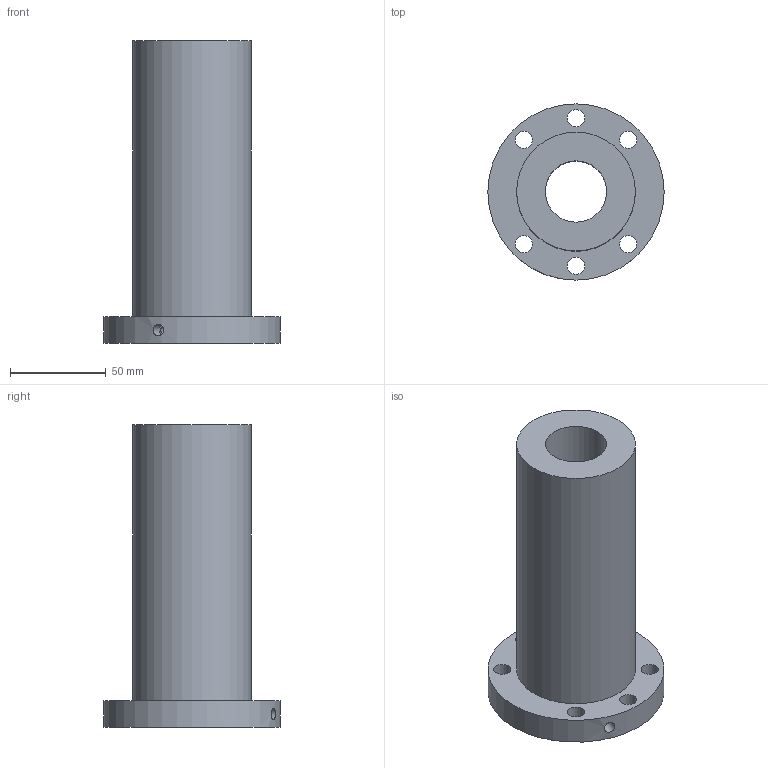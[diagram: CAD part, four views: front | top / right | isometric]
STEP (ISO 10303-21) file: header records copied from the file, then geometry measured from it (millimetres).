
FILE_DESCRIPTION(/* description */ (''),/* implementation_level */ '2;1');
FILE_NAME(/* name */ '32-10K5_635',/* time_stamp */ '2007-10-15T12:54:01+08:00',/* author */ (''),/* organization */ (''),/* preprocessor_version */ 'ST-DEVELOPER v11',/* originating_system */ 'UGS - NX 5.0',/* authorisation */ '');
FILE_SCHEMA (('CONFIG_CONTROL_DESIGN'));
Length unit declared in the file: millimetre
Products named in the file (1): 32-10K5_635
Bounding box: 92 x 92 x 158 mm (x, y, z)
Volume: 394895.6 mm3; surface area: 61678.7 mm2
Topology: 1 solids, 1 shells, 15 faces, 34 edges, 23 vertices
Faces by surface type: cylinder 11, plane 4
Full cylindrical faces by diameter (mm): 4 x1, 6 x1, 9 x6, 32 x1, 62 x1, 92 x1
Entity records: 600 total; most frequent: CARTESIAN_POINT 174, DIRECTION 72, FACE_BOUND 44, EDGE_LOOP 44, ORIENTED_EDGE 44, AXIS2_PLACEMENT_3D 36, VERTEX_POINT 22, EDGE_CURVE 22
